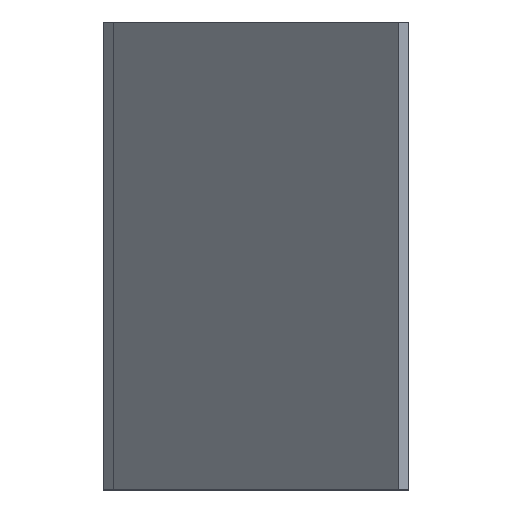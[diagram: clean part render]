
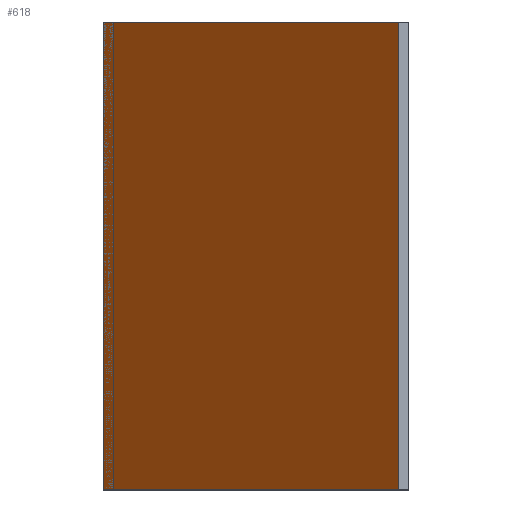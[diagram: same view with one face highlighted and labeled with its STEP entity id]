
A CAD part, left-side view. The second image highlights one B-rep face of the part: STEP entity #618.
In plain terms, the highlighted planar face has unit normal (-0.707, 0.707, 0).
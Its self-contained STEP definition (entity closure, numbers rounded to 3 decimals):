
#618=ADVANCED_FACE('',(#932),#4980,.T.);
#932=FACE_OUTER_BOUND('',#1266,.T.);
#1266=EDGE_LOOP('',(#2634,#2635,#2636,#2637));
#2634=ORIENTED_EDGE('',*,*,#3445,.T.);
#2635=ORIENTED_EDGE('',*,*,#3446,.T.);
#2636=ORIENTED_EDGE('',*,*,#3447,.F.);
#2637=ORIENTED_EDGE('',*,*,#3443,.F.);
#3443=EDGE_CURVE('',#4770,#4771,#3915,.T.);
#3445=EDGE_CURVE('',#4770,#4772,#3917,.T.);
#3446=EDGE_CURVE('',#4772,#4773,#3918,.T.);
#3447=EDGE_CURVE('',#4771,#4773,#3919,.T.);
#3915=B_SPLINE_CURVE_WITH_KNOTS('',1,(#12802,#12803),.UNSPECIFIED.,.F.,
 .F.,(2,2),(0.,250.),.UNSPECIFIED.);
#3917=B_SPLINE_CURVE_WITH_KNOTS('',1,(#12806,#12807),.UNSPECIFIED.,.F.,
 .F.,(2,2),(230.664,453.575),.UNSPECIFIED.);
#3918=B_SPLINE_CURVE_WITH_KNOTS('',1,(#12808,#12809),.UNSPECIFIED.,.F.,
 .F.,(2,2),(0.,250.),.UNSPECIFIED.);
#3919=B_SPLINE_CURVE_WITH_KNOTS('',1,(#12810,#12811),.UNSPECIFIED.,.F.,
 .F.,(2,2),(230.664,453.575),.UNSPECIFIED.);
#4770=VERTEX_POINT('',#12788);
#4771=VERTEX_POINT('',#12789);
#4772=VERTEX_POINT('',#12790);
#4773=VERTEX_POINT('',#12791);
#4980=PLANE('',#5308);
#5308=AXIS2_PLACEMENT_3D('',#12780,#5519,$);
#5519=DIRECTION('',(-0.707,0.707,0.));
#12780=CARTESIAN_POINT('',(65502.489,-44116.203,5721.806));
#12788=CARTESIAN_POINT('',(65502.489,-44116.203,5721.806));
#12789=CARTESIAN_POINT('',(65502.489,-44116.203,8221.806));
#12790=CARTESIAN_POINT('',(63926.271,-45692.421,5721.806));
#12791=CARTESIAN_POINT('',(63926.271,-45692.421,8221.806));
#12802=CARTESIAN_POINT('',(65502.489,-44116.203,5721.806));
#12803=CARTESIAN_POINT('',(65502.489,-44116.203,8221.806));
#12806=CARTESIAN_POINT('',(65502.489,-44116.203,5721.806));
#12807=CARTESIAN_POINT('',(63926.271,-45692.421,5721.806));
#12808=CARTESIAN_POINT('',(63926.271,-45692.421,5721.806));
#12809=CARTESIAN_POINT('',(63926.271,-45692.421,8221.806));
#12810=CARTESIAN_POINT('',(65502.489,-44116.203,8221.806));
#12811=CARTESIAN_POINT('',(63926.271,-45692.421,8221.806));
